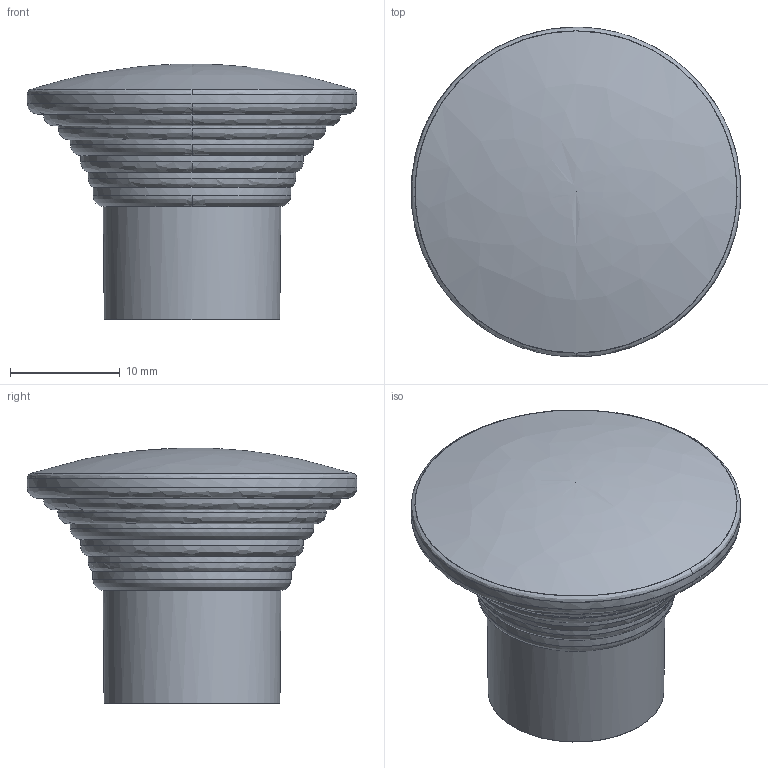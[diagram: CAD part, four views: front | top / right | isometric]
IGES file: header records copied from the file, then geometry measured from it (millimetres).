
Start section: C
Global section: file name: 8160.igs; native system: By Siemens PLM Incorporated; preprocessor: XPlus GENERIC/IGES 16.0.42; author: Author; organization: Title; date: 20231120.114224; units: millimetre
Bounding box: 29.97 x 30.03 x 23.3 mm (x, y, z)
Surface area: 4166.6 mm2 (no closed solid volume)
Topology: 0 solids, 0 shells, 34 faces, 208 edges, 206 vertices
Faces by surface type: bspline 34
